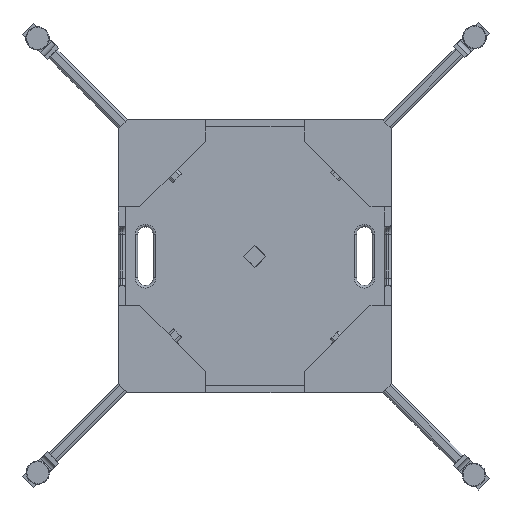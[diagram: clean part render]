
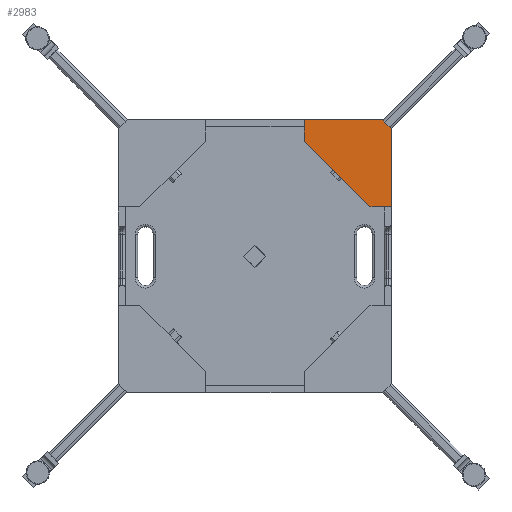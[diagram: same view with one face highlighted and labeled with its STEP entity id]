
A CAD part, front view. The second image highlights one B-rep face of the part: STEP entity #2983.
In plain terms, the highlighted planar face has unit normal (0, -1, 0).
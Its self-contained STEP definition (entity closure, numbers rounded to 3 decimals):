
#516 = VERTEX_POINT ( 'NONE', #19564 ) ;
#518 = VERTEX_POINT ( 'NONE', #19626 ) ;
#520 = VERTEX_POINT ( 'NONE', #19699 ) ;
#522 = VERTEX_POINT ( 'NONE', #19557 ) ;
#524 = VERTEX_POINT ( 'NONE', #19544 ) ;
#525 = VERTEX_POINT ( 'NONE', #19655 ) ;
#2528 = EDGE_CURVE ( 'NONE', #524, #525, #8217, .T. ) ;
#2532 = EDGE_CURVE ( 'NONE', #525, #522, #8225, .T. ) ;
#2535 = EDGE_CURVE ( 'NONE', #522, #520, #8231, .T. ) ;
#2538 = EDGE_CURVE ( 'NONE', #520, #518, #8237, .T. ) ;
#2541 = EDGE_CURVE ( 'NONE', #518, #516, #8243, .T. ) ;
#2543 = EDGE_CURVE ( 'NONE', #516, #524, #8247, .T. ) ;
#2983 = ADVANCED_FACE ( 'NONE', ( #11835 ), #11047, .F. ) ;
#4787 = AXIS2_PLACEMENT_3D ( 'NONE', #11048, #11049, #11050 ) ;
#5734 = ORIENTED_EDGE ( 'NONE', *, *, #2543, .T. ) ;
#5737 = ORIENTED_EDGE ( 'NONE', *, *, #2541, .T. ) ;
#5738 = ORIENTED_EDGE ( 'NONE', *, *, #2538, .T. ) ;
#5739 = ORIENTED_EDGE ( 'NONE', *, *, #2535, .T. ) ;
#5740 = ORIENTED_EDGE ( 'NONE', *, *, #2532, .T. ) ;
#5741 = ORIENTED_EDGE ( 'NONE', *, *, #2528, .T. ) ;
#5855 = EDGE_LOOP ( 'NONE', ( #5741, #5740, #5739, #5738, #5737, #5734 ) ) ;
#8217 = LINE ( 'NONE', #9129, #8218 ) ;
#8218 = VECTOR ( 'NONE', #9130, 1000. ) ;
#8225 = LINE ( 'NONE', #9137, #8226 ) ;
#8226 = VECTOR ( 'NONE', #9138, 1000. ) ;
#8231 = LINE ( 'NONE', #9143, #8232 ) ;
#8232 = VECTOR ( 'NONE', #9144, 1000. ) ;
#8237 = LINE ( 'NONE', #9149, #8238 ) ;
#8238 = VECTOR ( 'NONE', #9150, 1000. ) ;
#8243 = LINE ( 'NONE', #9155, #8244 ) ;
#8244 = VECTOR ( 'NONE', #9156, 1000. ) ;
#8247 = LINE ( 'NONE', #9159, #8248 ) ;
#8248 = VECTOR ( 'NONE', #9160, 1000. ) ;
#9129 = CARTESIAN_POINT ( 'NONE',  ( 217.049, -292.342, 335.373 ) ) ;
#9130 = DIRECTION ( 'NONE',  ( 0., 0., 1. ) ) ;
#9137 = CARTESIAN_POINT ( 'NONE',  ( 194.422, -292.342, 358. ) ) ;
#9138 = DIRECTION ( 'NONE',  ( -0.707, 0., 0.707 ) ) ;
#9143 = CARTESIAN_POINT ( 'NONE',  ( -5.578, -292.342, 358. ) ) ;
#9144 = DIRECTION ( 'NONE',  ( -1., 0., 0. ) ) ;
#9149 = CARTESIAN_POINT ( 'NONE',  ( -5.578, -292.342, 303.442 ) ) ;
#9150 = DIRECTION ( 'NONE',  ( 0., 0., -1. ) ) ;
#9155 = CARTESIAN_POINT ( 'NONE',  ( 162.491, -292.342, 135.373 ) ) ;
#9156 = DIRECTION ( 'NONE',  ( 0.707, 0., -0.707 ) ) ;
#9159 = CARTESIAN_POINT ( 'NONE',  ( 217.049, -292.342, 135.373 ) ) ;
#9160 = DIRECTION ( 'NONE',  ( 1., 0., 0. ) ) ;
#11047 = PLANE ( 'NONE',  #4787 ) ;
#11048 = CARTESIAN_POINT ( 'NONE',  ( 217.049, -292.342, 135.373 ) ) ;
#11049 = DIRECTION ( 'NONE',  ( 0., 1., 0. ) ) ;
#11050 = DIRECTION ( 'NONE',  ( 0., 0., 1. ) ) ;
#11835 = FACE_OUTER_BOUND ( 'NONE', #5855, .T. ) ;
#19544 = CARTESIAN_POINT ( 'NONE',  ( 217.049, -292.342, 135.373 ) ) ;
#19557 = CARTESIAN_POINT ( 'NONE',  ( 194.422, -292.342, 358. ) ) ;
#19564 = CARTESIAN_POINT ( 'NONE',  ( 162.491, -292.342, 135.373 ) ) ;
#19626 = CARTESIAN_POINT ( 'NONE',  ( -5.578, -292.342, 303.442 ) ) ;
#19655 = CARTESIAN_POINT ( 'NONE',  ( 217.049, -292.342, 335.373 ) ) ;
#19699 = CARTESIAN_POINT ( 'NONE',  ( -5.578, -292.342, 358. ) ) ;
